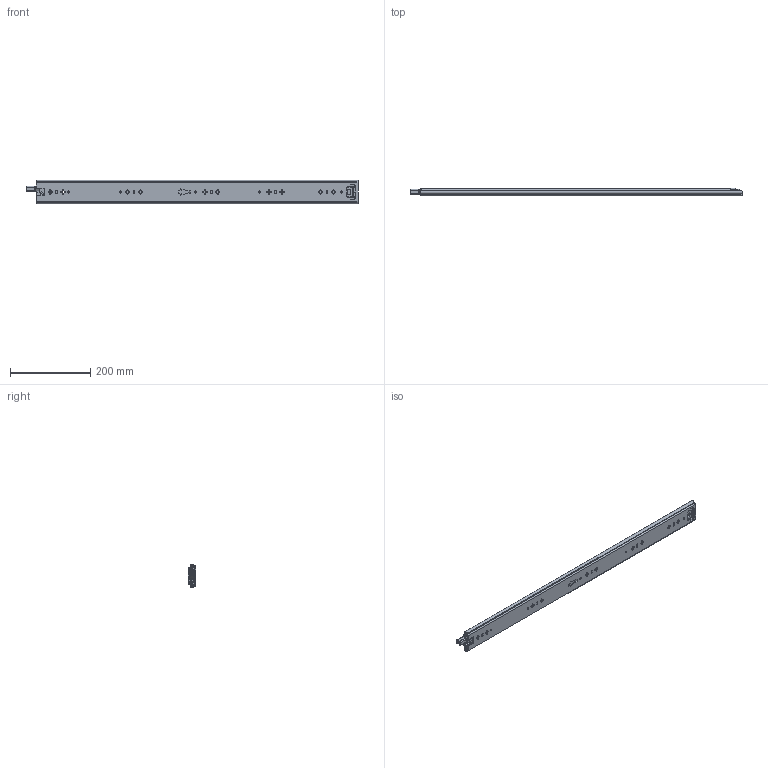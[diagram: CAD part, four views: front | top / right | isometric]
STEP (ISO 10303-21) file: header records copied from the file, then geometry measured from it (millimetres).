
FILE_DESCRIPTION((''),'2;1');
FILE_NAME('KP-57-01ZUZHUANGTU-32YOU_ASM','2023-04-03T',('jishu015'),(''),'PRO/ENGINEER BY PARAMETRIC TECHNOLOGY CORPORATION, 2010280','PRO/ENGINEER BY PARAMETRIC TECHNOLOGY CORPORATION, 2010280','');
FILE_SCHEMA(('CONFIG_CONTROL_DESIGN'));
Products named in the file (21): KP-57-01WEIKE-18___________; 1057WEIJIAO___________; WAIKE__________ASM; KP-57-01ZHONGGUI-18___________; ZHONGGUIPEIJIAN-11_________; ZHONGGUISUOKOU-11_________; KP-57-01ZHONGGUI-18____________ASM; 1057XIAOZHUJIA___________; 1057-5-6GANZHU___________; 1057XIAOZHUJIA-14GE____________ASM; KP-57-01NEIGUI-18___________; PJ-57-08_________; DIAOPIAN-11_________; 50XINSUOKOU-1_________; 1053-3SBANJI122_______; JIAO11_______; KP-57-01NEIGUI-18____________ASM; 1053ZHUTIAO-175_______________; 53-5-6GANZHU_______________; 1053ZHUTIAO-175MM__________ASM; KP-57-01ZUZHUANGTU-32YOU_ASM
Assembly tree (89 placements, depth 3):
  KP-57-01ZUZHUANGTU-32YOU_ASM
    WAIKE__________ASM
      KP-57-01WEIKE-18___________
      1057WEIJIAO___________
    KP-57-01ZHONGGUI-18____________ASM
      KP-57-01ZHONGGUI-18___________
      ZHONGGUIPEIJIAN-11_________
      ZHONGGUISUOKOU-11_________
    1057XIAOZHUJIA-14GE____________ASM
      1057XIAOZHUJIA___________
      1057-5-6GANZHU___________  x56
    KP-57-01NEIGUI-18____________ASM
      KP-57-01NEIGUI-18___________
      PJ-57-08_________
      DIAOPIAN-11_________
      50XINSUOKOU-1_________
      1053-3SBANJI122_______
      JIAO11_______
    1053ZHUTIAO-175MM__________ASM  x2
      1053ZHUTIAO-175_______________
      53-5-6GANZHU_______________
Bounding box: 825.45 x 19 x 57.67 mm (x, y, z)
Volume: 349256.9 mm3; surface area: 380810.8 mm2
Topology: 99 solids, 99 shells, 2589 faces, 7497 edges, 4691 vertices
Faces by surface type: cylinder 1115, plane 1054, sphere 179, bspline 115, cone 84, extrusion 23, torus 19
Entity records: 83983 total; most frequent: CARTESIAN_POINT 20686, ORIENTED_EDGE 13426, DIRECTION 13015, EDGE_CURVE 6713, AXIS2_PLACEMENT_3D 4487, VERTEX_POINT 4343, VECTOR 4041, LINE 4018
